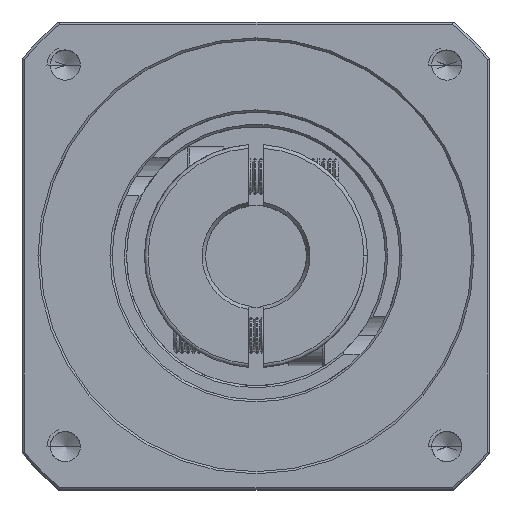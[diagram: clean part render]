
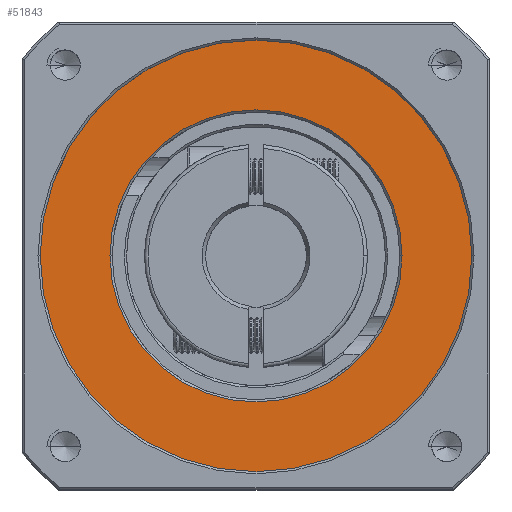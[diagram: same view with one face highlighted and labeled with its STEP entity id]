
A CAD part, top view. The second image highlights one B-rep face of the part: STEP entity #51843.
In plain terms, the highlighted planar face has unit normal (0, 0, 1).
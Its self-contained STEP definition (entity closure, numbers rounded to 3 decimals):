
#324 = CIRCLE ( 'NONE', #57730, 30. ) ;
#716 = DIRECTION ( 'NONE',  ( 0., 0., -1. ) ) ;
#5337 = EDGE_CURVE ( 'NONE', #80903, #47355, #324, .T. ) ;
#6267 = VERTEX_POINT ( 'NONE', #9397 ) ;
#7784 = CARTESIAN_POINT ( 'NONE',  ( -44.281, 36.751, -4.409 ) ) ;
#8675 = CARTESIAN_POINT ( 'NONE',  ( -44.281, 36.751, -4.409 ) ) ;
#9136 = VERTEX_POINT ( 'NONE', #88846 ) ;
#9397 = CARTESIAN_POINT ( 'NONE',  ( -64.581, 36.751, -4.409 ) ) ;
#10527 = ORIENTED_EDGE ( 'NONE', *, *, #5337, .T. ) ;
#11409 = CARTESIAN_POINT ( 'NONE',  ( -74.281, 36.751, -4.409 ) ) ;
#13461 = CIRCLE ( 'NONE', #88998, 30. ) ;
#16848 = DIRECTION ( 'NONE',  ( 1., 0., 0. ) ) ;
#18530 = FACE_OUTER_BOUND ( 'NONE', #45003, .T. ) ;
#24119 = CARTESIAN_POINT ( 'NONE',  ( -44.281, 36.751, -4.409 ) ) ;
#27378 = DIRECTION ( 'NONE',  ( 1., 0., 0. ) ) ;
#30418 = CIRCLE ( 'NONE', #53153, 20.3 ) ;
#31911 = EDGE_CURVE ( 'NONE', #6267, #9136, #47041, .T. ) ;
#39007 = CARTESIAN_POINT ( 'NONE',  ( -14.281, 36.751, -4.409 ) ) ;
#45003 = EDGE_LOOP ( 'NONE', ( #10527, #92545 ) ) ;
#47041 = CIRCLE ( 'NONE', #78906, 20.3 ) ;
#47355 = VERTEX_POINT ( 'NONE', #11409 ) ;
#48223 = CARTESIAN_POINT ( 'NONE',  ( -44.281, 36.751, -4.409 ) ) ;
#48548 = DIRECTION ( 'NONE',  ( 1., 0., 0. ) ) ;
#51843 = ADVANCED_FACE ( 'NONE', ( #91742, #18530 ), #95756, .T. ) ;
#53153 = AXIS2_PLACEMENT_3D ( 'NONE', #7784, #70906, #95237 ) ;
#57730 = AXIS2_PLACEMENT_3D ( 'NONE', #24119, #78954, #16848 ) ;
#58932 = ORIENTED_EDGE ( 'NONE', *, *, #31911, .T. ) ;
#70355 = DIRECTION ( 'NONE',  ( 0., 0., 1. ) ) ;
#70906 = DIRECTION ( 'NONE',  ( 0., 0., -1. ) ) ;
#72939 = ORIENTED_EDGE ( 'NONE', *, *, #80916, .T. ) ;
#78336 = DIRECTION ( 'NONE',  ( 1., 0., 0. ) ) ;
#78906 = AXIS2_PLACEMENT_3D ( 'NONE', #48223, #716, #27378 ) ;
#78954 = DIRECTION ( 'NONE',  ( 0., 0., 1. ) ) ;
#79773 = EDGE_CURVE ( 'NONE', #47355, #80903, #13461, .T. ) ;
#80903 = VERTEX_POINT ( 'NONE', #39007 ) ;
#80916 = EDGE_CURVE ( 'NONE', #9136, #6267, #30418, .T. ) ;
#84348 = AXIS2_PLACEMENT_3D ( 'NONE', #8675, #95433, #48548 ) ;
#88846 = CARTESIAN_POINT ( 'NONE',  ( -23.981, 36.751, -4.409 ) ) ;
#88998 = AXIS2_PLACEMENT_3D ( 'NONE', #101836, #70355, #78336 ) ;
#91742 = FACE_BOUND ( 'NONE', #94332, .T. ) ;
#92545 = ORIENTED_EDGE ( 'NONE', *, *, #79773, .T. ) ;
#94332 = EDGE_LOOP ( 'NONE', ( #72939, #58932 ) ) ;
#95237 = DIRECTION ( 'NONE',  ( 1., 0., 0. ) ) ;
#95433 = DIRECTION ( 'NONE',  ( 0., 0., 1. ) ) ;
#95756 = PLANE ( 'NONE',  #84348 ) ;
#101836 = CARTESIAN_POINT ( 'NONE',  ( -44.281, 36.751, -4.409 ) ) ;
